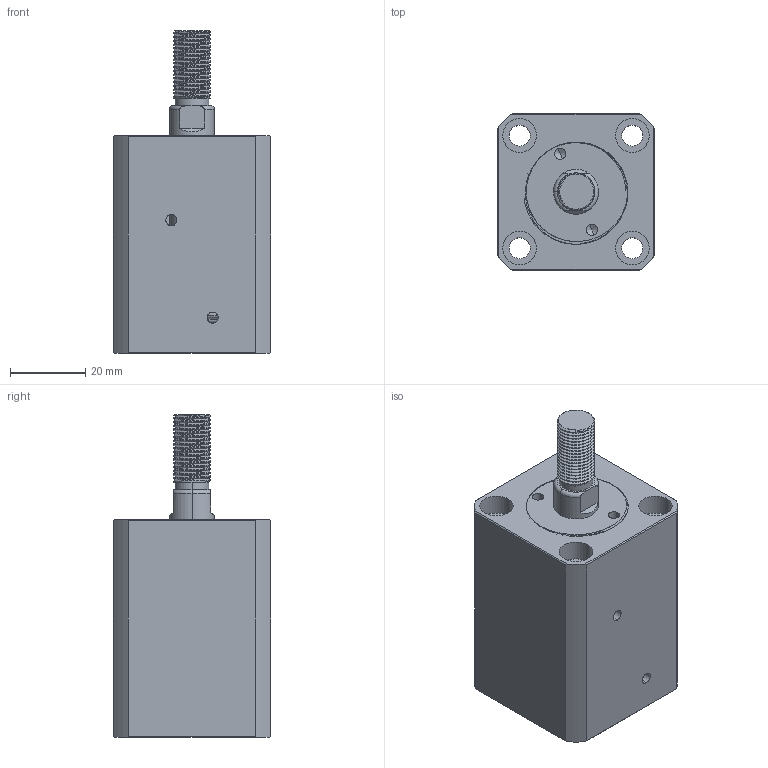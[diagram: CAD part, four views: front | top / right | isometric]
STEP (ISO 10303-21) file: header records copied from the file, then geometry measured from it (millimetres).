
FILE_DESCRIPTION (( 'STEP AP214' ), '1' );
FILE_NAME ('chtb-sdmb20x15w_asm.STEP', '2018-05-18T08:33:05', ( 'Windows' ), ( 'Microsoft' ), 'SwSTEP 2.0', 'SolidWorks 2015', '' );
FILE_SCHEMA (( 'AUTOMOTIVE_DESIGN' ));
Length unit declared in the file: millimetre
Products named in the file (4): QG_3; CHTB-SDMB20X15WHSG; CHTB-SDMB20X15NBT; chtb-sdmb20x15w_asm
Assembly tree (3 placements, depth 2):
  chtb-sdmb20x15w_asm
    CHTB-SDMB20X15NBT
    CHTB-SDMB20X15WHSG
    QG_3
Bounding box: 42 x 42 x 86 mm (x, y, z)
Volume: 90609.3 mm3; surface area: 30012 mm2
Topology: 3 solids, 3 shells, 243 faces, 660 edges, 439 vertices
Faces by surface type: cylinder 143, plane 47, torus 25, bspline 23, cone 5
Entity records: 14768 total; most frequent: CARTESIAN_POINT 8984, ORIENTED_EDGE 1312, DIRECTION 1058, EDGE_CURVE 656, VERTEX_POINT 439, AXIS2_PLACEMENT_3D 434, EDGE_LOOP 281, FACE_OUTER_BOUND 243
